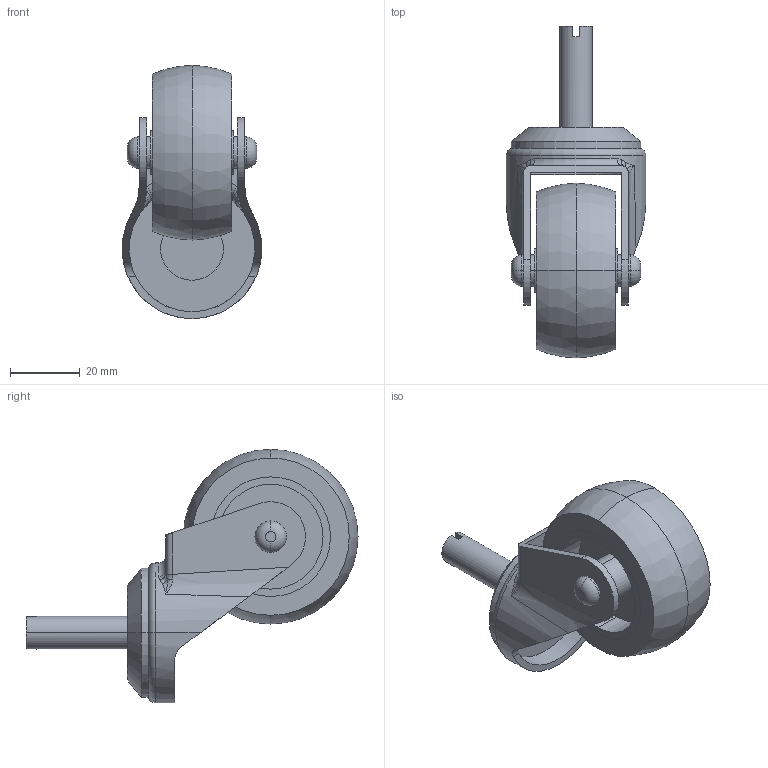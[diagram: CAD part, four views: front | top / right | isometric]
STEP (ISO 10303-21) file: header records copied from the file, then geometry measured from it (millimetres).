
FILE_DESCRIPTION (( 'STEP AP203' ), '1' );
FILE_NAME ('Rueda Ø50mm.STEP', '2022-03-02T16:40:53', ( '' ), ( '' ), 'SwSTEP 2.0', 'SolidWorks 2019', '' );
FILE_SCHEMA (( 'CONFIG_CONTROL_DESIGN' ));
Length unit declared in the file: millimetre
Products named in the file (1): Rueda ﾘ50mm
Bounding box: 40 x 95 x 72.5 mm (x, y, z)
Volume: 51113.6 mm3; surface area: 27656.1 mm2
Topology: 5 solids, 5 shells, 96 faces, 216 edges, 136 vertices
Faces by surface type: cylinder 32, plane 30, bspline 20, torus 12, cone 2
Entity records: 3651 total; most frequent: CARTESIAN_POINT 1547, ORIENTED_EDGE 432, DIRECTION 406, EDGE_CURVE 216, AXIS2_PLACEMENT_3D 173, VERTEX_POINT 136, EDGE_LOOP 106, CIRCLE 96
